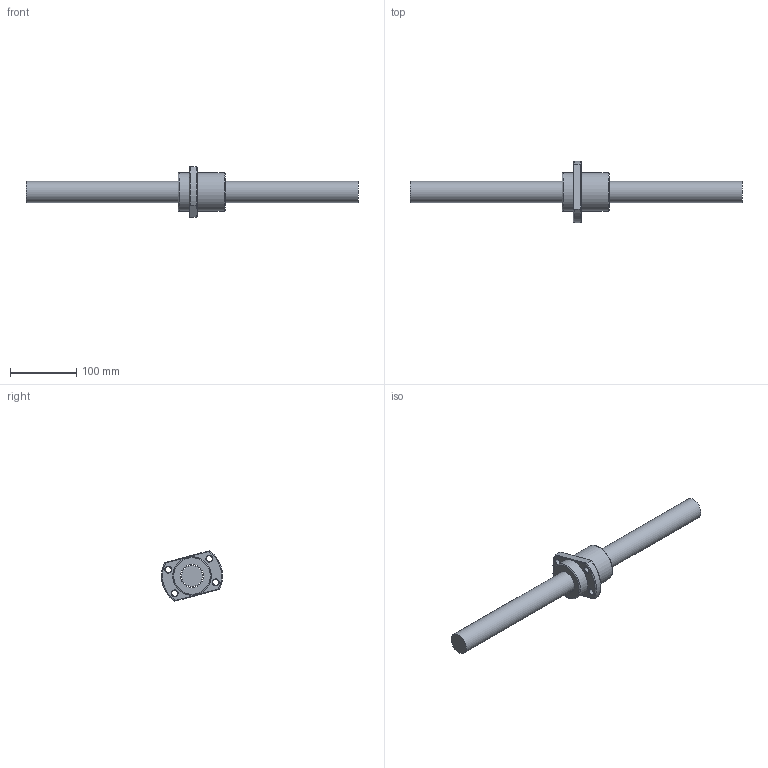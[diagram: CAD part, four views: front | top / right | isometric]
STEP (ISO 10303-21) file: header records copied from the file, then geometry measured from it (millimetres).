
FILE_DESCRIPTION (( 'STEP AP203' ), '1' );
FILE_NAME ('SFYA03264-1.6.step', '2024-05-22T07:52:17', ( '' ), ( '' ), 'SwSTEP 2.0', 'SolidWorks 2022', '' );
FILE_SCHEMA (( 'CONFIG_CONTROL_DESIGN' ));
Length unit declared in the file: millimetre
Products named in the file (1): SFYA03264-1.6
Bounding box: 500 x 91.97 x 76.01 mm (x, y, z)
Volume: 547643.3 mm3; surface area: 82555.2 mm2
Topology: 2 solids, 2 shells, 51 faces, 124 edges, 79 vertices
Faces by surface type: cylinder 18, plane 13, cone 9, torus 6, bspline 5
Full cylindrical faces by diameter (mm): 4 x1, 5 x6, 9 x4, 32 x1, 34.8 x1, 58 x2
Entity records: 3027 total; most frequent: CARTESIAN_POINT 2066, DIRECTION 170, ORIENTED_EDGE 156, EDGE_LOOP 80, EDGE_CURVE 78, AXIS2_PLACEMENT_3D 77, VERTEX_POINT 62, FACE_OUTER_BOUND 57
